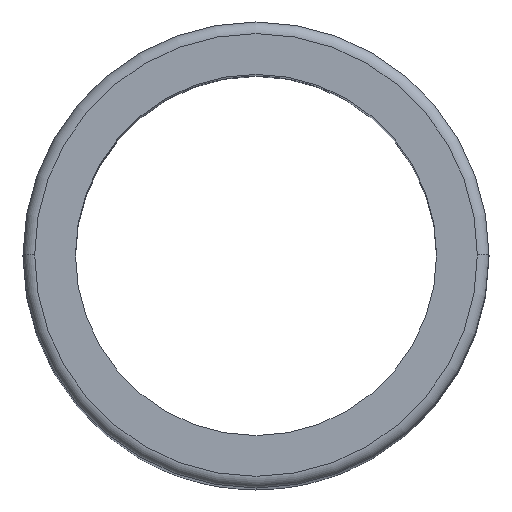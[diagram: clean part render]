
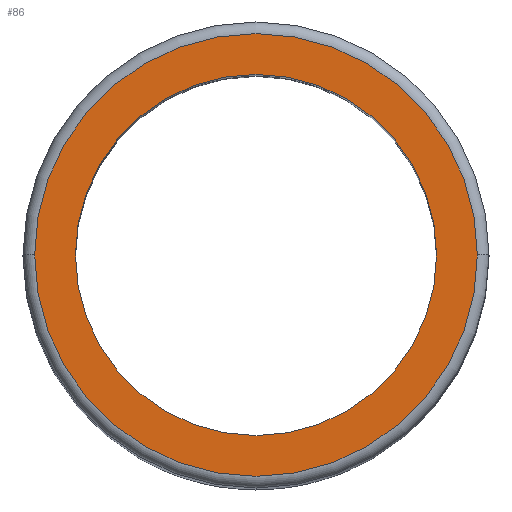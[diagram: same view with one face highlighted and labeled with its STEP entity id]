
A CAD part, top view. The second image highlights one B-rep face of the part: STEP entity #86.
In plain terms, the highlighted planar face has unit normal (0, 0, 1).
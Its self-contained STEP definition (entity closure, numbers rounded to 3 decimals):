
#40 = PLANE ( 'NONE',  #399 ) ;
#69 = ORIENTED_EDGE ( 'NONE', *, *, #393, .T. ) ;
#71 = FACE_BOUND ( 'NONE', #564, .T. ) ;
#74 = CARTESIAN_POINT ( 'NONE',  ( 7.75, 0., 50. ) ) ;
#81 = AXIS2_PLACEMENT_3D ( 'NONE', #403, #459, #456 ) ;
#86 = ADVANCED_FACE ( 'NONE', ( #71, #404 ), #40, .T. ) ;
#92 = CIRCLE ( 'NONE', #727, 7.75 ) ;
#119 = EDGE_LOOP ( 'NONE', ( #122, #69 ) ) ;
#122 = ORIENTED_EDGE ( 'NONE', *, *, #471, .T. ) ;
#156 = EDGE_CURVE ( 'NONE', #167, #306, #92, .T. ) ;
#167 = VERTEX_POINT ( 'NONE', #581 ) ;
#220 = VERTEX_POINT ( 'NONE', #480 ) ;
#284 = CARTESIAN_POINT ( 'NONE',  ( 0., 0., 50. ) ) ;
#306 = VERTEX_POINT ( 'NONE', #74 ) ;
#317 = CARTESIAN_POINT ( 'NONE',  ( 0., 0., 50. ) ) ;
#322 = DIRECTION ( 'NONE',  ( 1., 0., 0. ) ) ;
#340 = VERTEX_POINT ( 'NONE', #730 ) ;
#352 = CARTESIAN_POINT ( 'NONE',  ( 0., 0., 50. ) ) ;
#365 = CIRCLE ( 'NONE', #699, 7.75 ) ;
#371 = DIRECTION ( 'NONE',  ( 1., 0., 0. ) ) ;
#393 = EDGE_CURVE ( 'NONE', #220, #340, #579, .T. ) ;
#399 = AXIS2_PLACEMENT_3D ( 'NONE', #317, #607, #322 ) ;
#403 = CARTESIAN_POINT ( 'NONE',  ( 0., 0., 50. ) ) ;
#404 = FACE_OUTER_BOUND ( 'NONE', #119, .T. ) ;
#420 = DIRECTION ( 'NONE',  ( 1., 0., 0. ) ) ;
#439 = ORIENTED_EDGE ( 'NONE', *, *, #714, .F. ) ;
#456 = DIRECTION ( 'NONE',  ( 1., 0., 0. ) ) ;
#459 = DIRECTION ( 'NONE',  ( 0., 0., 1. ) ) ;
#471 = EDGE_CURVE ( 'NONE', #340, #220, #514, .T. ) ;
#478 = DIRECTION ( 'NONE',  ( 0., 0., 1. ) ) ;
#480 = CARTESIAN_POINT ( 'NONE',  ( -9.5, 0., 50. ) ) ;
#514 = CIRCLE ( 'NONE', #81, 9.5 ) ;
#564 = EDGE_LOOP ( 'NONE', ( #439, #620 ) ) ;
#579 = CIRCLE ( 'NONE', #615, 9.5 ) ;
#581 = CARTESIAN_POINT ( 'NONE',  ( -7.75, 0., 50. ) ) ;
#607 = DIRECTION ( 'NONE',  ( 0., 0., 1. ) ) ;
#615 = AXIS2_PLACEMENT_3D ( 'NONE', #352, #637, #694 ) ;
#620 = ORIENTED_EDGE ( 'NONE', *, *, #156, .F. ) ;
#637 = DIRECTION ( 'NONE',  ( 0., 0., 1. ) ) ;
#642 = CARTESIAN_POINT ( 'NONE',  ( 0., 0., 50. ) ) ;
#679 = DIRECTION ( 'NONE',  ( 0., 0., 1. ) ) ;
#694 = DIRECTION ( 'NONE',  ( 1., 0., 0. ) ) ;
#699 = AXIS2_PLACEMENT_3D ( 'NONE', #642, #478, #420 ) ;
#714 = EDGE_CURVE ( 'NONE', #306, #167, #365, .T. ) ;
#727 = AXIS2_PLACEMENT_3D ( 'NONE', #284, #679, #371 ) ;
#730 = CARTESIAN_POINT ( 'NONE',  ( 9.5, 0., 50. ) ) ;
